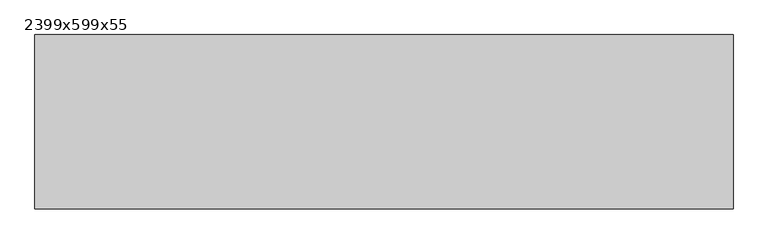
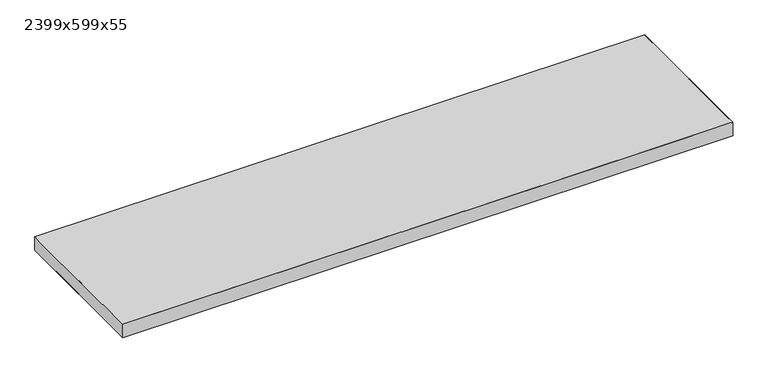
"""IFC4 building model written with IfcOpenShell, lengths in millimetres: proxy geometry, Texaa Panneaux Stereo fixés contre support par système magnétique séparés ou groupés au mur : 2399x599x55."""

from ifc_helpers import new_model, si_unit, frame, origin, place, context, project, spatial, polyline, outline, extrude, faceted_brep, source, transform, mapped, element, save


def proxy_2399x599x55_aaef1d60(model_context):
    return source(origin(), model_context, "Body", "SolidModel", [
        extrude(outline(polyline([(-1198.5, 298.5), (1198.5, 298.5), (1198.5, -298.5), (-1198.5, -298.5), (-1198.5, 298.5)])), frame((0.0, 0.0, 11.0), z_axis=(0.0, 0.0, 1.0), x_axis=(1.0, 0.0, 0.0)), (0.0, 0.0, 1.0), 53.0),
        faceted_brep([(1199.5, -299.5, 65.0), (1199.5, 299.5, 65.0), (-1199.5, 299.5, 65.0), (-1199.5, 298.4692994, 65.0), (-1199.5, 297.4385987, 65.0), (-1199.5, 247.9649686, 65.0), (-1199.5, -299.5, 65.0), (993.1017693, -299.5, 65.0), (1191.2440708, -299.5, 65.0), (1195.3720354, -299.5, 65.0), (-1199.5, 299.5, 10.0), (1199.5, 299.5, 10.0), (1199.5, -299.5, 10.0), (-1199.5, -299.5, 10.0), (-1149.5, -249.5, 10.0), (1149.5, -249.5, 10.0), (1149.5, 249.5, 10.0), (-1149.5, 249.5, 10.0), (-1199.5, 299.5, 64.0), (1199.5, -299.5, 64.0), (-1149.5, -249.5, 11.0), (1149.5, -249.5, 11.0), (1149.5, 249.5, 11.0), (-1149.5, 249.5, 11.0), (1198.5, 298.5, 64.0), (1198.5, -298.5, 64.0), (1195.4949917, -298.5, 64.0), (1191.367027, -298.5, 64.0), (1187.2390624, -298.5, 64.0), (989.0967609, -298.5, 64.0), (-1198.5, -298.5, 64.0), (-1198.5, 247.7152813, 64.0), (-1198.5, 297.1889114, 64.0), (-1198.5, 298.219612, 64.0), (-1198.5, 298.5, 64.0), (-1195.4949917, 298.5, 64.0), (-1198.5, 298.5, 11.0), (-1198.5, -298.5, 11.0), (1198.5, -298.5, 11.0), (1198.5, 298.5, 11.0)], [[[0, 1, 2, 3, 4, 5, 6, 7, 8, 9]], [[10, 11, 12, 13], [14, 15, 16, 17]], [[10, 13, 6, 5, 4, 3, 2, 18]], [[13, 12, 19, 0, 9, 8, 7, 6]], [[1, 0, 19, 12, 11]], [[2, 1, 11, 10, 18]], [[14, 20, 21, 15]], [[15, 21, 22, 16]], [[16, 22, 23, 17]], [[20, 14, 17, 23]], [[24, 25, 26, 27, 28, 29, 30, 31, 32, 33, 34, 35]], [[36, 37, 38, 39], [21, 20, 23, 22]], [[37, 36, 34, 33, 32, 31, 30]], [[38, 37, 30, 29, 28, 27, 26, 25]], [[25, 24, 39, 38]], [[36, 39, 24, 35, 34]]]),
    ])


if __name__ == "__main__":
    model = new_model("IFC4")
    model_context = context("Model", 3, world=origin())
    ifc_project = project(units=[si_unit("LENGTHUNIT", "METRE", prefix="MILLI")], contexts=[model_context])
    site = spatial("IfcSite", under=ifc_project)
    building = spatial("IfcBuilding", under=site)
    placement = place(None, origin())
    proxy_2399x599x55_shape = proxy_2399x599x55_aaef1d60(model_context)
    element("IfcBuildingElementProxy", 1, Name="Texaa Panneaux Stereo fixés contre support par système magnétique séparés ou groupés au mur : 2399x599x55", ObjectType="Texaa Panneaux Stereo fixés contre support par système magnétique séparés ou groupés au mur : 2399x599x55", at=placement, inside=building, context=model_context, shape_type="MappedRepresentation", body=[
        mapped(proxy_2399x599x55_shape, transform((0.0, 0.0, 0.0), x_axis=(1.0, 0.0, 0.0), y_axis=(0.0, 1.0, 0.0), z_axis=(0.0, 0.0, 1.0))),
    ])
    save(model, "model.ifc")
